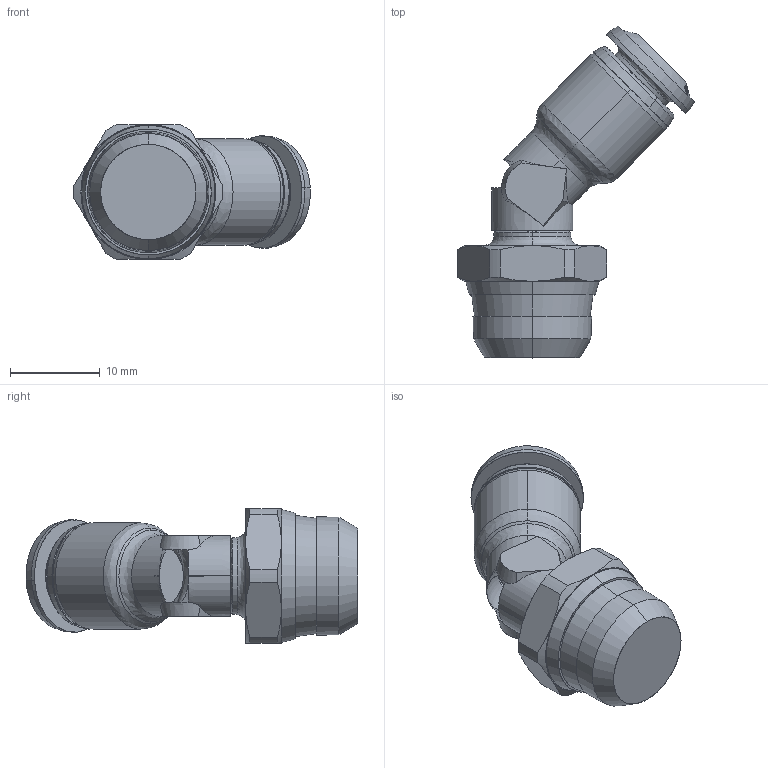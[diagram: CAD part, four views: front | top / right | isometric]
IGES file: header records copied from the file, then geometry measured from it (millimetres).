
Start section: SolidWorks IGES file using analytic representation for surfaces
Global section: file name: K:\Disegni Esecutivi\ALPHA TECHNOLOGIES\85000\Assiemi-85000\85170\IGES\8517000007A.IGS; native system: SolidWorks 2016; preprocessor: SolidWorks 2016; author: cad06; date: 200519.140402; units: millimetre
Bounding box: 26.31 x 36.92 x 15 mm (x, y, z)
Surface area: 2293.9 mm2 (no closed solid volume)
Topology: 0 solids, 0 shells, 157 faces, 1633 edges, 1633 vertices
Faces by surface type: bspline 90, revolution 67
